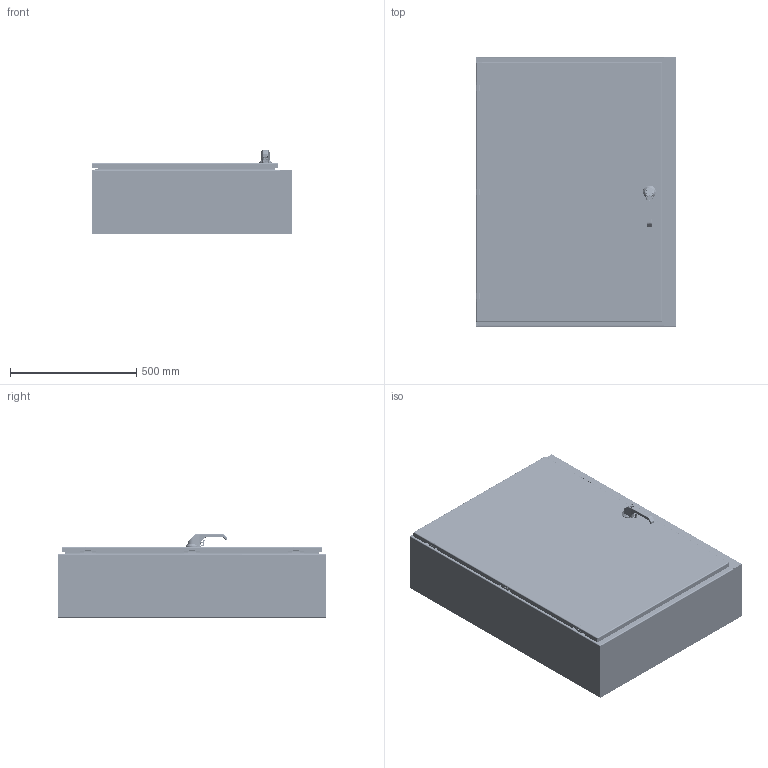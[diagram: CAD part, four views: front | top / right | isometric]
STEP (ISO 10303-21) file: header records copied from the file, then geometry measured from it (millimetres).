
FILE_DESCRIPTION((''),'2;1');
FILE_NAME('MODEL-315_ASM','2026-04-02T14:21:49',('mikek'),('SAGINAW CONTROL & ENGINEERING'),'CREO PARAMETRIC BY PTC INC, 2021284','CREO PARAMETRIC BY PTC INC, 2021284','');
FILE_SCHEMA(('AUTOMOTIVE_DESIGN { 1 0 10303 214 1 1 1 1 }'));
Length unit declared in the file: inch
Products named in the file (57): MODEL-315-BDY; MODEL-315-TP; MODEL-315-BTM; MODEL-315-DR; 100837; 100882; 111267; 125597; 100953_SCREW_MTG; 100953_PADLOCK_CATCH; 100953_SCREW_LARGE; 100953_INSERT_SHAFT; 100953_INSERT_PCH; 100953_GASKET; 100953_O-RING; 100953_BASE; 100953_SPRING; 100953_HANDLE; 100953_CAM_SHAFT; 100953_HANDLE_ASM; 100953_CAM_ADAPTER; 100953_EARTH_NUT; 100953_FLANGE_NUT; 100953_CAM_NUT; 100953_CP_INSERT; 100953_SPRING_CAM; 100953_TORSION_SPRING; 100953_SCREW_INSERT; 100953_ASM; 128142; 100030; 128142_ASM; MODEL-315-ROD-UPR; 128146; 128145; 128144; 102482; MODEL-315-ROD-UPR_ASM; 128143; 112504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
Assembly tree (107 placements, depth 5):
  MODEL-315_ASM
    MODEL-315-BDY
    MODEL-315-TP
    MODEL-315-BTM
    MODEL-315-DR-ASSY_ASM
      MODEL-315-DR
      100837  x7
      100882  x4
      111267
      125597
      100953_ASM
        100953_SCREW_MTG
        100953_PADLOCK_CATCH
        100953_SCREW_LARGE  x2
        100953_INSERT_SHAFT
        100953_INSERT_PCH
        100953_GASKET
        100953_O-RING
        100953_BASE
        100953_SPRING
        100953_HANDLE_ASM
          100953_HANDLE
          100953_CAM_SHAFT
        100953_CAM_ADAPTER
        100953_EARTH_NUT
        100953_FLANGE_NUT
        100953_CAM_NUT
        100953_CP_INSERT
        100953_SPRING_CAM
        100953_TORSION_SPRING
        100953_SCREW_INSERT
      128142_ASM
        128142
        100030  x2
      MODEL-315-ROD-UPR_ASM
        MODEL-315-ROD-UPR
        128146
        128145
        128144
        102482  x2
      128143  x2
      112504  x2
      MODEL-315-ROD-LWR_ASM
        MODEL-315-ROD-LWR
        128146
        128145
        128144
        102482  x2
      MODEL-315-POUR-GSKT
      126392_ASM  x3
        126392
      126395  x3
      102483  x9
      101226  x3
      101389  x3
      102140  x3
      132757  x3
    100837  x2
    101653  x6
    SUBPANEL-SUBASSEMBLY_ASM
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Bounding box: 796.92 x 1066.8 x 332.33 mm (x, y, z)
Volume: 8527615.6 mm3; surface area: 7673256.8 mm2
Topology: 106 solids, 106 shells, 8900 faces, 22186 edges, 13498 vertices
Faces by surface type: plane 3130, cylinder 2338, bspline 1654, torus 796, cone 650, sphere 302, extrusion 30
Entity records: 328588 total; most frequent: CARTESIAN_POINT 138606, ORIENTED_EDGE 29790, DIRECTION 26729, PRESENTATION_STYLE_ASSIGNMENT 14956, STYLED_ITEM 14949, CURVE_STYLE 14895, EDGE_CURVE 14895, AXIS2_PLACEMENT_3D 9930
